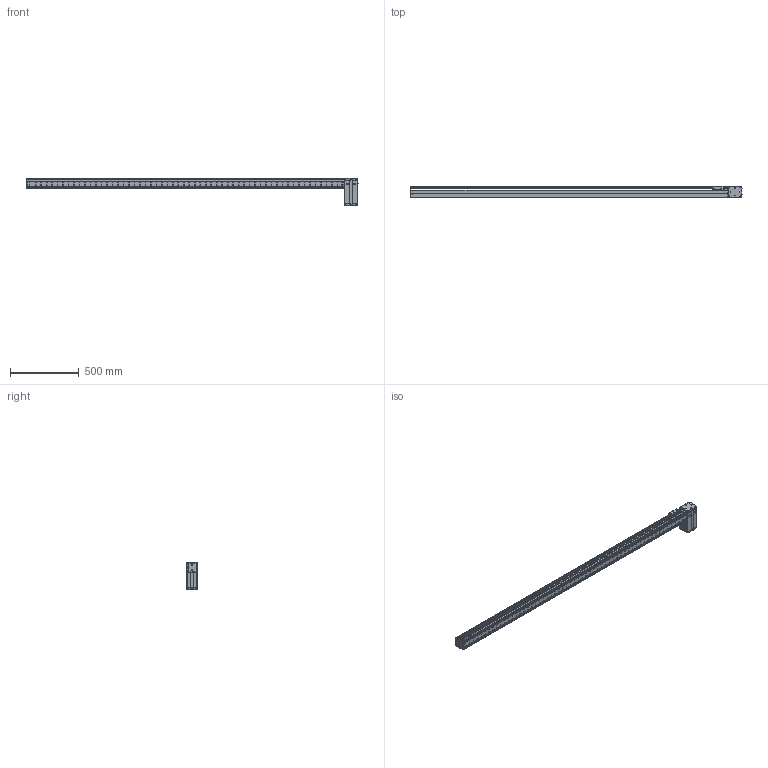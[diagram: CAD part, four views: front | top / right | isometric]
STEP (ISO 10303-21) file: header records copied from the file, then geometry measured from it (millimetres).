
FILE_DESCRIPTION((''),'2;1');
FILE_NAME('BE10_-BL-S_N-M5_IGS_PRT','2017-06-18T',(' '),(''),'PRO/ENGINEER BY PARAMETRIC TECHNOLOGY CORPORATION, 2015030','PRO/ENGINEER BY PARAMETRIC TECHNOLOGY CORPORATION, 2015030','');
FILE_SCHEMA(('CONFIG_CONTROL_DESIGN'));
Products named in the file (1): BE10_-BL-S_N-M5_IGS_PRT
Bounding box: 2420.8 x 85 x 200.22 mm (x, y, z)
Volume: 3069488.5 mm3; surface area: 2176018.7 mm2
Topology: 5 solids, 193 shells, 2383 faces, 6542 edges, 4371 vertices
Faces by surface type: cylinder 1147, plane 1077, cone 103, sphere 28, torus 25, bspline 3
Entity records: 78476 total; most frequent: CARTESIAN_POINT 16312, DIRECTION 13247, ORIENTED_EDGE 12256, EDGE_CURVE 6486, AXIS2_PLACEMENT_3D 4876, VERTEX_POINT 4370, VECTOR 3495, LINE 3495
